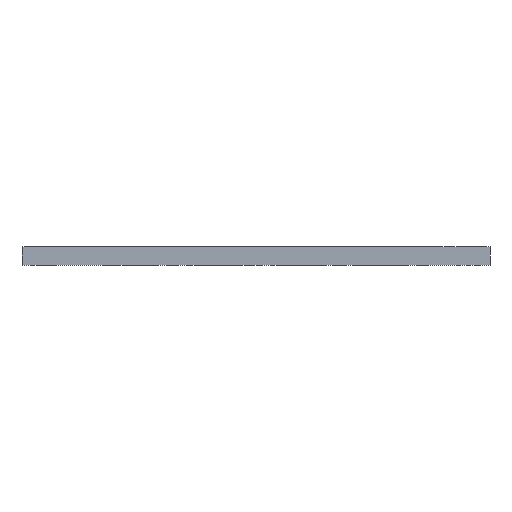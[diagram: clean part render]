
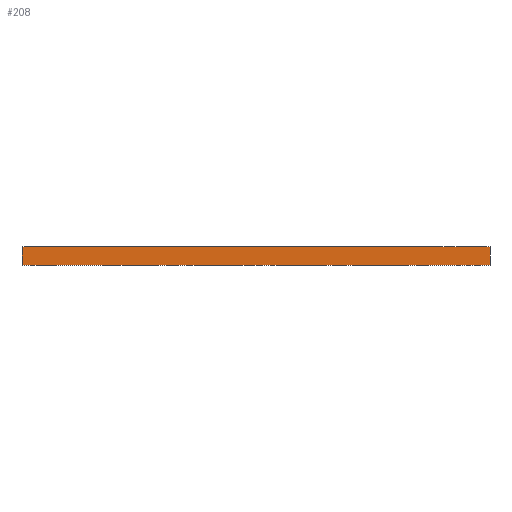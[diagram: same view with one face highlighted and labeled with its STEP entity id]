
A CAD part, front view. The second image highlights one B-rep face of the part: STEP entity #208.
In plain terms, the highlighted planar face has unit normal (0, -1, 0).
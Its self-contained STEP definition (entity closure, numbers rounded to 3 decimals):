
#208 = ADVANCED_FACE ( 'NONE', ( #593 ), #3466, .F. ) ;
#315 = DIRECTION ( 'NONE',  ( 1., 0., 0. ) ) ;
#316 = CARTESIAN_POINT ( 'NONE',  ( -64.5, -110., 5. ) ) ;
#391 = CARTESIAN_POINT ( 'NONE',  ( -64.5, -110., 5. ) ) ;
#394 = CARTESIAN_POINT ( 'NONE',  ( -64.5, -110., 0. ) ) ;
#420 = CARTESIAN_POINT ( 'NONE',  ( 64.5, -110., 5. ) ) ;
#551 = CARTESIAN_POINT ( 'NONE',  ( 64.5, -110., 0. ) ) ;
#593 = FACE_OUTER_BOUND ( 'NONE', #2355, .T. ) ;
#863 = DIRECTION ( 'NONE',  ( 1., 0., 0. ) ) ;
#864 = CARTESIAN_POINT ( 'NONE',  ( -64.5, -110., 0. ) ) ;
#868 = DIRECTION ( 'NONE',  ( 0., 0., -1. ) ) ;
#869 = CARTESIAN_POINT ( 'NONE',  ( -64.5, -110., 5. ) ) ;
#969 = EDGE_CURVE ( 'NONE', #3294, #3168, #1132, .T. ) ;
#1132 = LINE ( 'NONE', #2445, #1133 ) ;
#1133 = VECTOR ( 'NONE', #2443, 1000. ) ;
#1664 = EDGE_CURVE ( 'NONE', #3320, #3317, #2664, .T. ) ;
#1666 = EDGE_CURVE ( 'NONE', #3317, #3168, #2669, .T. ) ;
#1806 = AXIS2_PLACEMENT_3D ( 'NONE', #3465, #3464, #3463 ) ;
#1834 = EDGE_CURVE ( 'NONE', #3320, #3294, #2310, .T. ) ;
#2310 = LINE ( 'NONE', #316, #2311 ) ;
#2311 = VECTOR ( 'NONE', #315, 1000. ) ;
#2355 = EDGE_LOOP ( 'NONE', ( #2585, #2584, #2583, #2582 ) ) ;
#2443 = DIRECTION ( 'NONE',  ( 0., 0., -1. ) ) ;
#2445 = CARTESIAN_POINT ( 'NONE',  ( 64.5, -110., 5. ) ) ;
#2582 = ORIENTED_EDGE ( 'NONE', *, *, #1664, .T. ) ;
#2583 = ORIENTED_EDGE ( 'NONE', *, *, #1834, .F. ) ;
#2584 = ORIENTED_EDGE ( 'NONE', *, *, #969, .F. ) ;
#2585 = ORIENTED_EDGE ( 'NONE', *, *, #1666, .T. ) ;
#2664 = LINE ( 'NONE', #869, #2666 ) ;
#2666 = VECTOR ( 'NONE', #868, 1000. ) ;
#2669 = LINE ( 'NONE', #864, #2670 ) ;
#2670 = VECTOR ( 'NONE', #863, 1000. ) ;
#3168 = VERTEX_POINT ( 'NONE', #551 ) ;
#3294 = VERTEX_POINT ( 'NONE', #420 ) ;
#3317 = VERTEX_POINT ( 'NONE', #394 ) ;
#3320 = VERTEX_POINT ( 'NONE', #391 ) ;
#3463 = DIRECTION ( 'NONE',  ( -1., 0., 0. ) ) ;
#3464 = DIRECTION ( 'NONE',  ( 0., 1., 0. ) ) ;
#3465 = CARTESIAN_POINT ( 'NONE',  ( -64.5, -110., 5. ) ) ;
#3466 = PLANE ( 'NONE',  #1806 ) ;
